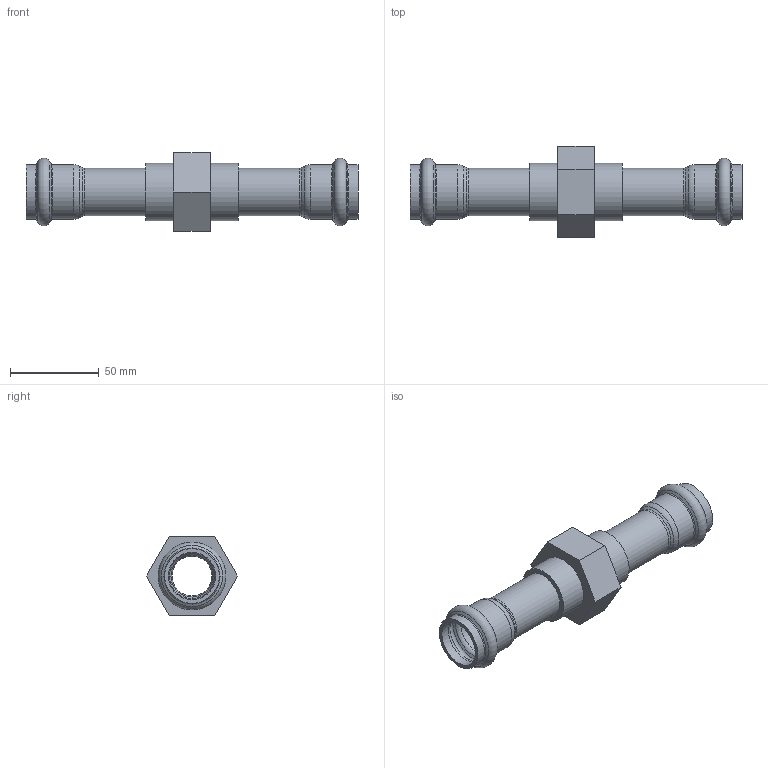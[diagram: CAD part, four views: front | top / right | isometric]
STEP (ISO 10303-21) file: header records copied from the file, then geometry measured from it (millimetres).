
FILE_DESCRIPTION(/* description */ ('VIC THREADED UNION STYLE P585 (P X P)','CAx-IF Rec.Pracs.---Representation and Presentation of Product Manufacturing Information (PMI)---4.0---2014-10-13'),/* implementation_level */ '2;1');
FILE_NAME(/* name */ 'C:\Users\kkamble\AppData\Roaming\Autodesk\ApplicationPlugins\Back Up\Victaulic_SS-Vic-Press-TP 316_Union Threaded_Style P585 (VP)\Victaulic_SS-Vic-Press-TP 316_Union Threaded_Style P585 (VP)_0.75 (20).stp',/* time_stamp */ '2020-08-14T15:52:44+05:00',/* author */ ('jheald'),/* organization */ ('Victaulic'),/* preprocessor_version */ 'ST-DEVELOPER v17.2',/* originating_system */ 'Autodesk Inventor 2019',/* authorisation */ '');
FILE_SCHEMA (('AP242_MANAGED_MODEL_BASED_3D_ENGINEERING_MIM_LF { 1 0 10303 442 1 1 4 }'));
Length unit declared in the file: inch
Products named in the file (1): P585-0.75
Bounding box: 187.2 x 51.33 x 44.45 mm (x, y, z)
Volume: 66487.5 mm3; surface area: 37115.4 mm2
Topology: 1 solids, 1 shells, 57 faces, 201 edges, 150 vertices
Faces by surface type: torus 20, cylinder 13, cone 12, plane 12
Full cylindrical faces by diameter (mm): 22.454 x1, 26.67 x6, 30.886 x4, 32.512 x2
Entity records: 2539 total; most frequent: DIRECTION 501, CARTESIAN_POINT 426, ORIENTED_EDGE 402, AXIS2_PLACEMENT_3D 229, EDGE_CURVE 201, CIRCLE 158, VERTEX_POINT 150, EDGE_LOOP 63
